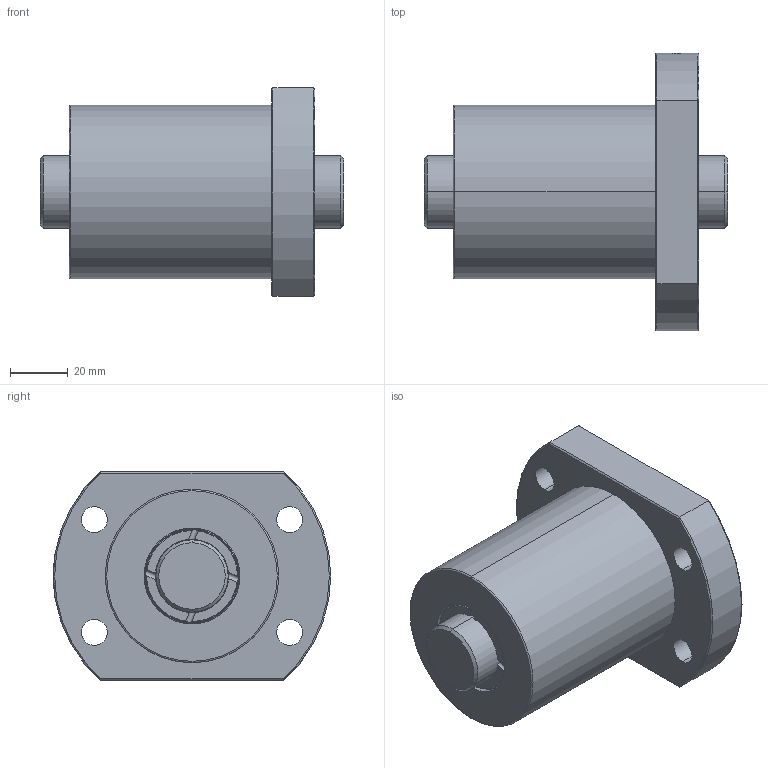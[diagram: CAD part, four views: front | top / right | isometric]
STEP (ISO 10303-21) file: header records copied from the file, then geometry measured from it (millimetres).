
FILE_DESCRIPTION (( 'STEP AP203' ), '1' );
FILE_NAME ('SFBR02510T4D.STEP', '2020-06-17T09:02:52', ( '' ), ( '' ), 'SwSTEP 2.0', 'SolidWorks 2013', '' );
FILE_SCHEMA (( 'CONFIG_CONTROL_DESIGN' ));
Length unit declared in the file: millimetre
Products named in the file (1): SFBR02510T4D
Bounding box: 105 x 96 x 72 mm (x, y, z)
Volume: 291013 mm3; surface area: 49300.9 mm2
Topology: 2 solids, 2 shells, 104 faces, 254 edges, 158 vertices
Faces by surface type: cylinder 50, plane 26, torus 24, cone 4
Entity records: 3921 total; most frequent: CARTESIAN_POINT 1395, DIRECTION 522, ORIENTED_EDGE 508, EDGE_CURVE 254, AXIS2_PLACEMENT_3D 227, VERTEX_POINT 158, EDGE_LOOP 122, CIRCLE 122
